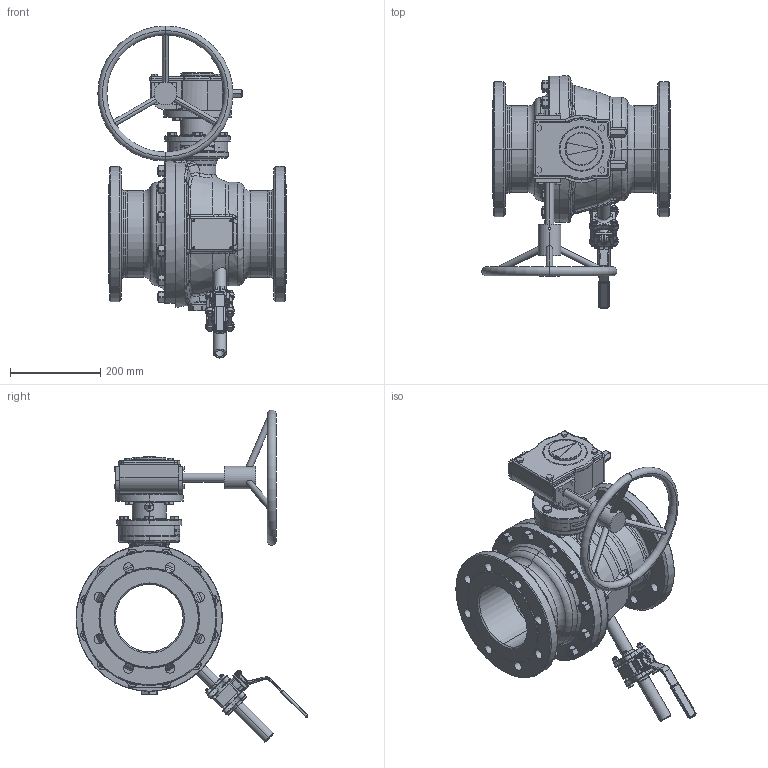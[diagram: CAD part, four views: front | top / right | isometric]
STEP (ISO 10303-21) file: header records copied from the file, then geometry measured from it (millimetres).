
FILE_DESCRIPTION((''),'2;1');
FILE_NAME('ASM0001_ASM','2020-06-25T15:02:26',('schwaba'),('KLINGER'),'CREO PARAMETRIC BY PTC INC, 2018420','CREO PARAMETRIC BY PTC INC, 2018420','');
FILE_SCHEMA(('AUTOMOTIVE_DESIGN { 1 0 10303 214 1 1 1 1 }'));
Products named in the file (3): KHIFL150VFL150P040MFF_SW0002; KHIZWISTK-----150P040_SW0001; ASM0001_ASM
Assembly tree (2 placements, depth 2):
  ASM0001_ASM
    KHIFL150VFL150P040MFF_SW0002
    KHIZWISTK-----150P040_SW0001
Bounding box: 418 x 514.94 x 737.25 mm (x, y, z)
Volume: 13765949 mm3; surface area: 1742096.6 mm2
Topology: 2 solids, 5 shells, 3309 faces, 7998 edges, 4770 vertices
Faces by surface type: cylinder 915, plane 843, cone 593, bspline 468, torus 418, sphere 72
Entity records: 171758 total; most frequent: CARTESIAN_POINT 96168, ORIENTED_EDGE 15840, DIRECTION 15466, EDGE_CURVE 7920, AXIS2_PLACEMENT_3D 6503, VERTEX_POINT 4770, CIRCLE 3628, EDGE_LOOP 3588
